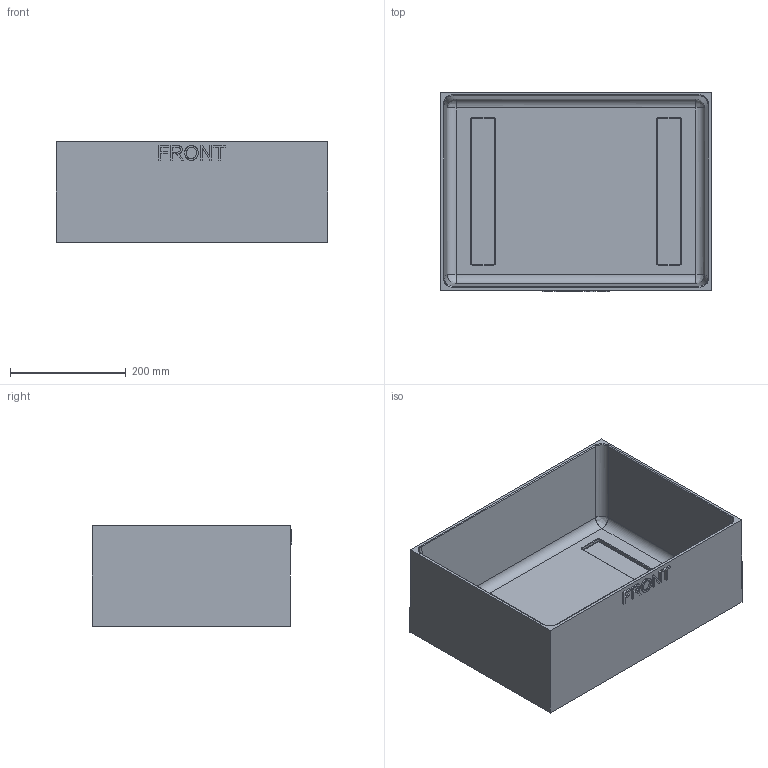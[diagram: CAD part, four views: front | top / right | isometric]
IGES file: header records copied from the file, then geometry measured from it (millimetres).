
Start section: Comment
Global section: file name: 2450-base_internal_tub.igs; native system:  By UGS Corp.; preprocessor: XPlus GENERIC/IGES 3.0; author: Author; organization: Title; date: 20100513.092044; units: millimetre
Bounding box: 469.9 x 346.07 x 174.62 mm (x, y, z)
Surface area: 842577.1 mm2 (no closed solid volume)
Topology: 0 solids, 0 shells, 131 faces, 710 edges, 706 vertices
Faces by surface type: bspline 131
